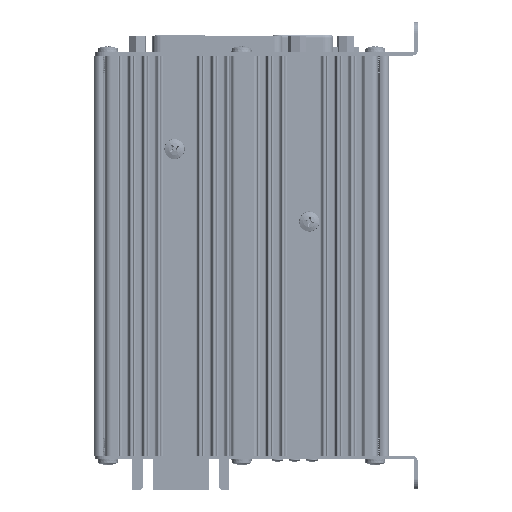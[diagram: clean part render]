
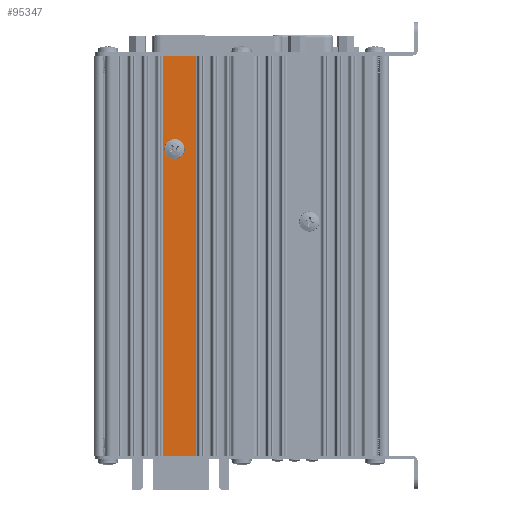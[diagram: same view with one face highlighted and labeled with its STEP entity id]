
A CAD part, left-side view. The second image highlights one B-rep face of the part: STEP entity #95347.
In plain terms, the highlighted planar face has unit normal (-1, 0, 0) as drawn and (0, 0, -1) by its records, which use the part's own axes.
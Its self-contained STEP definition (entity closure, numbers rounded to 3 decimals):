
#17654=CIRCLE('',#102609,0.198);
#25263=VERTEX_POINT('',#149193);
#25362=VERTEX_POINT('',#149479);
#25363=VERTEX_POINT('',#149481);
#25364=VERTEX_POINT('',#149485);
#25365=VERTEX_POINT('',#149487);
#35077=VECTOR('',#122323,1.);
#35078=VECTOR('',#122327,1.);
#35079=VECTOR('',#122328,1.);
#35080=VECTOR('',#122329,1.);
#44605=LINE('',#149480,#35077);
#44606=LINE('',#149484,#35078);
#44607=LINE('',#149486,#35079);
#44608=LINE('',#149488,#35080);
#54985=EDGE_CURVE('',#25263,#25263,#17654,.T.);
#55124=EDGE_CURVE('',#25363,#25362,#44605,.T.);
#55126=EDGE_CURVE('',#25362,#25364,#44606,.T.);
#55127=EDGE_CURVE('',#25365,#25364,#44607,.T.);
#55128=EDGE_CURVE('',#25365,#25363,#44608,.T.);
#75581=ORIENTED_EDGE('',*,*,#54985,.T.);
#75582=ORIENTED_EDGE('',*,*,#55126,.T.);
#75583=ORIENTED_EDGE('',*,*,#55127,.F.);
#75584=ORIENTED_EDGE('',*,*,#55128,.T.);
#75585=ORIENTED_EDGE('',*,*,#55124,.T.);
#85241=EDGE_LOOP('',(#75581));
#85242=EDGE_LOOP('',(#75582,#75583,#75584,#75585));
#90615=FACE_BOUND('',#85241,.T.);
#90616=FACE_BOUND('',#85242,.T.);
#95347=ADVANCED_FACE('',(#90615,#90616),#158575,.T.);
#102609=AXIS2_PLACEMENT_3D('',#149192,#122054,#122055);
#102713=AXIS2_PLACEMENT_3D('',#149483,#122326,$);
#122054=DIRECTION('',(0.,0.,1.));
#122055=DIRECTION('',(-0.198,0.,0.));
#122323=DIRECTION('',(-1.,0.,0.));
#122326=DIRECTION('',(0.,0.,-1.));
#122327=DIRECTION('',(0.,1.,0.));
#122328=DIRECTION('',(-1.,0.,0.));
#122329=DIRECTION('',(0.,-1.,0.));
#149192=CARTESIAN_POINT('',(-2.16,5.568,-0.958));
#149193=CARTESIAN_POINT('',(-2.358,5.568,-0.958));
#149479=CARTESIAN_POINT('',(-4.913,4.941,-0.958));
#149480=CARTESIAN_POINT('',(6.886,4.941,-0.958));
#149481=CARTESIAN_POINT('',(6.886,4.941,-0.958));
#149483=CARTESIAN_POINT('',(6.886,5.423,-0.958));
#149484=CARTESIAN_POINT('',(-4.913,5.905,-0.958));
#149485=CARTESIAN_POINT('',(-4.913,5.905,-0.958));
#149486=CARTESIAN_POINT('',(6.886,5.905,-0.958));
#149487=CARTESIAN_POINT('',(6.886,5.905,-0.958));
#149488=CARTESIAN_POINT('',(6.886,5.905,-0.958));
#158575=PLANE('',#102713);
